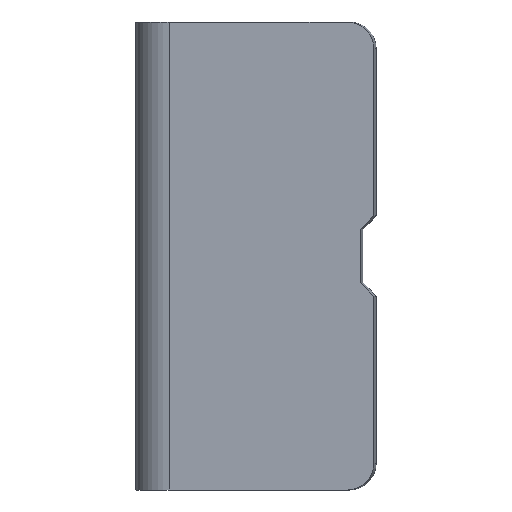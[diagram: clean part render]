
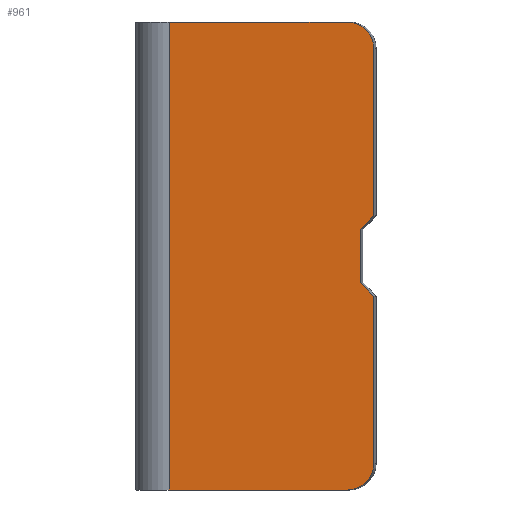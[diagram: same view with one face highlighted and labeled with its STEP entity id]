
A CAD part, left-side view. The second image highlights one B-rep face of the part: STEP entity #961.
In plain terms, the highlighted planar face has unit normal (-0.996, 0.087, 0).
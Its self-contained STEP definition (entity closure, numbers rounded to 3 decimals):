
#17 = DIRECTION ( 'NONE',  ( 0., 0., 1. ) ) ;
#20 = DIRECTION ( 'NONE',  ( 0., 0., 1. ) ) ;
#30 = CIRCLE ( 'NONE', #646, 2. ) ;
#46 = VERTEX_POINT ( 'NONE', #622 ) ;
#66 = VECTOR ( 'NONE', #1058, 1000. ) ;
#74 = CARTESIAN_POINT ( 'NONE',  ( -7.788, -0.498, 17.5 ) ) ;
#76 = ORIENTED_EDGE ( 'NONE', *, *, #99, .T. ) ;
#81 = CARTESIAN_POINT ( 'NONE',  ( -9.127, -15.801, 15.5 ) ) ;
#86 = VERTEX_POINT ( 'NONE', #457 ) ;
#99 = EDGE_CURVE ( 'NONE', #883, #46, #532, .T. ) ;
#107 = CARTESIAN_POINT ( 'NONE',  ( -7.788, -0.498, -17.5 ) ) ;
#120 = ORIENTED_EDGE ( 'NONE', *, *, #843, .T. ) ;
#123 = FACE_OUTER_BOUND ( 'NONE', #417, .T. ) ;
#131 = ORIENTED_EDGE ( 'NONE', *, *, #863, .T. ) ;
#141 = EDGE_CURVE ( 'NONE', #193, #424, #707, .T. ) ;
#153 = EDGE_CURVE ( 'NONE', #424, #281, #469, .T. ) ;
#161 = CARTESIAN_POINT ( 'NONE',  ( -8.953, -13.809, -15.5 ) ) ;
#169 = LINE ( 'NONE', #868, #240 ) ;
#173 = CARTESIAN_POINT ( 'NONE',  ( -9.04, -14.805, -2. ) ) ;
#193 = VERTEX_POINT ( 'NONE', #74 ) ;
#202 = CARTESIAN_POINT ( 'NONE',  ( -9.04, -14.805, 2. ) ) ;
#218 = DIRECTION ( 'NONE',  ( -0.087, -0.996, 0. ) ) ;
#223 = VECTOR ( 'NONE', #483, 1000. ) ;
#240 = VECTOR ( 'NONE', #956, 1000. ) ;
#242 = LINE ( 'NONE', #644, #223 ) ;
#255 = DIRECTION ( 'NONE',  ( 0., 0., 1. ) ) ;
#270 = CARTESIAN_POINT ( 'NONE',  ( -8.953, -13.809, 15.5 ) ) ;
#281 = VERTEX_POINT ( 'NONE', #928 ) ;
#282 = DIRECTION ( 'NONE',  ( -0.996, 0.087, 0. ) ) ;
#342 = EDGE_CURVE ( 'NONE', #383, #883, #445, .T. ) ;
#347 = ORIENTED_EDGE ( 'NONE', *, *, #141, .T. ) ;
#355 = VECTOR ( 'NONE', #962, 1000. ) ;
#364 = DIRECTION ( 'NONE',  ( -0.062, -0.704, 0.707 ) ) ;
#366 = AXIS2_PLACEMENT_3D ( 'NONE', #161, #411, #934 ) ;
#383 = VERTEX_POINT ( 'NONE', #173 ) ;
#394 = AXIS2_PLACEMENT_3D ( 'NONE', #462, #282, #548 ) ;
#406 = VERTEX_POINT ( 'NONE', #509 ) ;
#411 = DIRECTION ( 'NONE',  ( -0.996, 0.087, 0. ) ) ;
#417 = EDGE_LOOP ( 'NONE', ( #767, #347, #785, #769, #599, #131, #466, #76, #671, #120 ) ) ;
#424 = VERTEX_POINT ( 'NONE', #107 ) ;
#430 = CARTESIAN_POINT ( 'NONE',  ( -9.04, -14.805, 2. ) ) ;
#445 = LINE ( 'NONE', #1029, #940 ) ;
#457 = CARTESIAN_POINT ( 'NONE',  ( -8.953, -13.809, 17.5 ) ) ;
#462 = CARTESIAN_POINT ( 'NONE',  ( -5.118, 30.023, 17.5 ) ) ;
#466 = ORIENTED_EDGE ( 'NONE', *, *, #342, .T. ) ;
#467 = PLANE ( 'NONE',  #394 ) ;
#469 = LINE ( 'NONE', #628, #1102 ) ;
#483 = DIRECTION ( 'NONE',  ( 0., 0., 1. ) ) ;
#509 = CARTESIAN_POINT ( 'NONE',  ( -9.127, -15.801, -3. ) ) ;
#532 = LINE ( 'NONE', #202, #661 ) ;
#548 = DIRECTION ( 'NONE',  ( 0., 0., 1. ) ) ;
#556 = CARTESIAN_POINT ( 'NONE',  ( -7.788, -0.498, 17.5 ) ) ;
#593 = CARTESIAN_POINT ( 'NONE',  ( -9.127, -15.801, -17.5 ) ) ;
#599 = ORIENTED_EDGE ( 'NONE', *, *, #816, .T. ) ;
#604 = VERTEX_POINT ( 'NONE', #1091 ) ;
#622 = CARTESIAN_POINT ( 'NONE',  ( -9.127, -15.801, 3. ) ) ;
#628 = CARTESIAN_POINT ( 'NONE',  ( -9.127, -15.801, -17.5 ) ) ;
#637 = EDGE_CURVE ( 'NONE', #46, #738, #242, .T. ) ;
#641 = EDGE_CURVE ( 'NONE', #281, #604, #853, .T. ) ;
#644 = CARTESIAN_POINT ( 'NONE',  ( -9.127, -15.801, 3. ) ) ;
#646 = AXIS2_PLACEMENT_3D ( 'NONE', #270, #936, #255 ) ;
#661 = VECTOR ( 'NONE', #364, 1000. ) ;
#670 = LINE ( 'NONE', #593, #1051 ) ;
#671 = ORIENTED_EDGE ( 'NONE', *, *, #637, .T. ) ;
#707 = LINE ( 'NONE', #556, #66 ) ;
#738 = VERTEX_POINT ( 'NONE', #81 ) ;
#767 = ORIENTED_EDGE ( 'NONE', *, *, #932, .T. ) ;
#769 = ORIENTED_EDGE ( 'NONE', *, *, #641, .T. ) ;
#785 = ORIENTED_EDGE ( 'NONE', *, *, #153, .T. ) ;
#816 = EDGE_CURVE ( 'NONE', #604, #406, #670, .T. ) ;
#843 = EDGE_CURVE ( 'NONE', #738, #86, #30, .T. ) ;
#853 = CIRCLE ( 'NONE', #366, 2. ) ;
#863 = EDGE_CURVE ( 'NONE', #406, #383, #169, .T. ) ;
#868 = CARTESIAN_POINT ( 'NONE',  ( -9.127, -15.801, -3. ) ) ;
#883 = VERTEX_POINT ( 'NONE', #430 ) ;
#892 = LINE ( 'NONE', #1057, #355 ) ;
#928 = CARTESIAN_POINT ( 'NONE',  ( -8.953, -13.809, -17.5 ) ) ;
#932 = EDGE_CURVE ( 'NONE', #86, #193, #892, .T. ) ;
#934 = DIRECTION ( 'NONE',  ( 0., 0., 1. ) ) ;
#936 = DIRECTION ( 'NONE',  ( -0.996, 0.087, 0. ) ) ;
#940 = VECTOR ( 'NONE', #17, 1000. ) ;
#956 = DIRECTION ( 'NONE',  ( 0.062, 0.704, 0.707 ) ) ;
#961 = ADVANCED_FACE ( 'NONE', ( #123 ), #467, .T. ) ;
#962 = DIRECTION ( 'NONE',  ( 0.087, 0.996, 0. ) ) ;
#1029 = CARTESIAN_POINT ( 'NONE',  ( -9.04, -14.805, -2. ) ) ;
#1051 = VECTOR ( 'NONE', #20, 1000. ) ;
#1057 = CARTESIAN_POINT ( 'NONE',  ( -9.127, -15.801, 17.5 ) ) ;
#1058 = DIRECTION ( 'NONE',  ( 0., 0., -1. ) ) ;
#1091 = CARTESIAN_POINT ( 'NONE',  ( -9.127, -15.801, -15.5 ) ) ;
#1102 = VECTOR ( 'NONE', #218, 1000. ) ;
